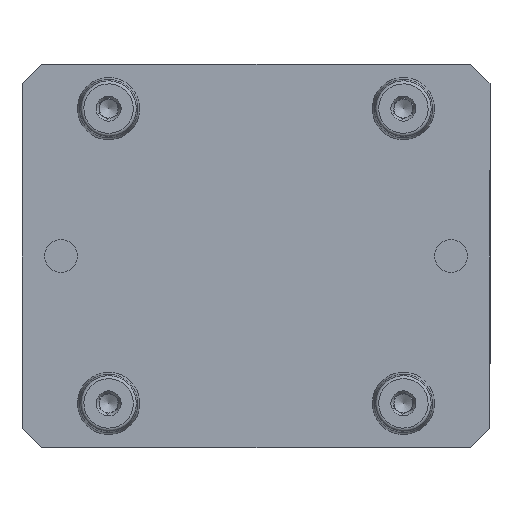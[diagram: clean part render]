
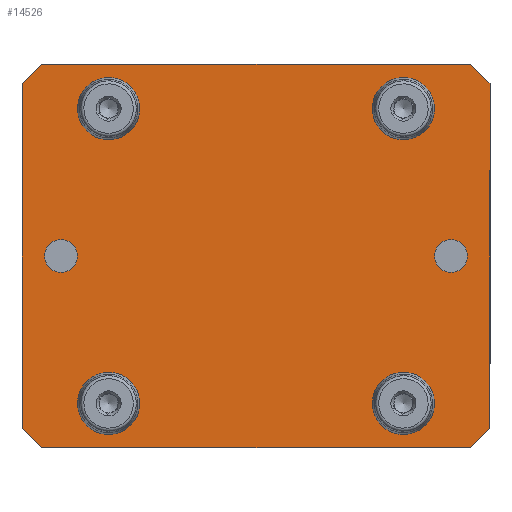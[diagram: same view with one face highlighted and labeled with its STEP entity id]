
A CAD part, front view. The second image highlights one B-rep face of the part: STEP entity #14526.
In plain terms, the highlighted planar face has unit normal (0, -1, 0).
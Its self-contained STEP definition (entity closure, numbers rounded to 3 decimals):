
#255 = DIRECTION ( 'NONE',  ( 0.707, 0., -0.707 ) ) ;
#695 = CARTESIAN_POINT ( 'NONE',  ( -69.85, 0., 62.497 ) ) ;
#788 = EDGE_CURVE ( 'NONE', #3095, #3095, #5813, .T. ) ;
#1117 = DIRECTION ( 'NONE',  ( 0., 0., -1. ) ) ;
#1497 = DIRECTION ( 'NONE',  ( 0., -1., 0. ) ) ;
#1763 = VECTOR ( 'NONE', #18843, 1000. ) ;
#1796 = CARTESIAN_POINT ( 'NONE',  ( 48., 0., -48. ) ) ;
#1880 = VERTEX_POINT ( 'NONE', #27275 ) ;
#1947 = VERTEX_POINT ( 'NONE', #21576 ) ;
#1976 = VERTEX_POINT ( 'NONE', #14669 ) ;
#2595 = ORIENTED_EDGE ( 'NONE', *, *, #26651, .F. ) ;
#3095 = VERTEX_POINT ( 'NONE', #14209 ) ;
#3193 = EDGE_CURVE ( 'NONE', #26569, #19560, #28852, .T. ) ;
#3826 = CARTESIAN_POINT ( 'NONE',  ( 48., 0., 56.01 ) ) ;
#4112 = AXIS2_PLACEMENT_3D ( 'NONE', #4563, #22878, #6956 ) ;
#4163 = VECTOR ( 'NONE', #8965, 1000. ) ;
#4407 = EDGE_CURVE ( 'NONE', #10413, #10413, #21663, .T. ) ;
#4438 = VECTOR ( 'NONE', #255, 1000. ) ;
#4454 = DIRECTION ( 'NONE',  ( 0., 0., 1. ) ) ;
#4563 = CARTESIAN_POINT ( 'NONE',  ( 0., 0., 0. ) ) ;
#4862 = FACE_BOUND ( 'NONE', #9378, .T. ) ;
#4998 = EDGE_CURVE ( 'NONE', #27073, #12221, #14905, .T. ) ;
#5169 = DIRECTION ( 'NONE',  ( -0.707, 0., 0.707 ) ) ;
#5526 = DIRECTION ( 'NONE',  ( 0., -1., 0. ) ) ;
#5600 = VERTEX_POINT ( 'NONE', #23748 ) ;
#5604 = LINE ( 'NONE', #695, #1763 ) ;
#5813 = CIRCLE ( 'NONE', #22599, 8.01 ) ;
#5895 = CARTESIAN_POINT ( 'NONE',  ( -76.2, 0., -62.497 ) ) ;
#6667 = FACE_BOUND ( 'NONE', #28385, .T. ) ;
#6956 = DIRECTION ( 'NONE',  ( 0., 0., 1. ) ) ;
#6961 = CARTESIAN_POINT ( 'NONE',  ( -76.2, 0., 56.147 ) ) ;
#7059 = ORIENTED_EDGE ( 'NONE', *, *, #15269, .F. ) ;
#7135 = LINE ( 'NONE', #19287, #12261 ) ;
#7340 = DIRECTION ( 'NONE',  ( 0., -1., 0. ) ) ;
#7410 = LINE ( 'NONE', #25759, #21759 ) ;
#7454 = ORIENTED_EDGE ( 'NONE', *, *, #3193, .F. ) ;
#7700 = DIRECTION ( 'NONE',  ( 0., 0., -1. ) ) ;
#7911 = EDGE_CURVE ( 'NONE', #21041, #19560, #5604, .T. ) ;
#8202 = CARTESIAN_POINT ( 'NONE',  ( -76.2, 0., -56.147 ) ) ;
#8230 = VECTOR ( 'NONE', #19422, 1000. ) ;
#8646 = CARTESIAN_POINT ( 'NONE',  ( -76.2, 0., -56.147 ) ) ;
#8795 = CARTESIAN_POINT ( 'NONE',  ( -69.85, 0., -62.497 ) ) ;
#8888 = CIRCLE ( 'NONE', #10791, 5.358 ) ;
#8965 = DIRECTION ( 'NONE',  ( 0.707, 0., 0.707 ) ) ;
#9059 = EDGE_CURVE ( 'NONE', #10110, #10110, #20923, .T. ) ;
#9060 = FACE_OUTER_BOUND ( 'NONE', #11003, .T. ) ;
#9197 = EDGE_CURVE ( 'NONE', #11007, #11007, #14721, .T. ) ;
#9199 = FACE_BOUND ( 'NONE', #14196, .T. ) ;
#9347 = EDGE_CURVE ( 'NONE', #27073, #1976, #22636, .T. ) ;
#9378 = EDGE_LOOP ( 'NONE', ( #22561 ) ) ;
#10110 = VERTEX_POINT ( 'NONE', #19302 ) ;
#10413 = VERTEX_POINT ( 'NONE', #3826 ) ;
#10791 = AXIS2_PLACEMENT_3D ( 'NONE', #29384, #18420, #4454 ) ;
#10859 = CARTESIAN_POINT ( 'NONE',  ( 69.85, 0., 62.497 ) ) ;
#11003 = EDGE_LOOP ( 'NONE', ( #7454, #23542, #20497, #23554, #7059, #20679, #2595, #14021 ) ) ;
#11007 = VERTEX_POINT ( 'NONE', #18236 ) ;
#12221 = VERTEX_POINT ( 'NONE', #8795 ) ;
#12259 = ORIENTED_EDGE ( 'NONE', *, *, #4407, .F. ) ;
#12261 = VECTOR ( 'NONE', #7700, 1000. ) ;
#12511 = EDGE_CURVE ( 'NONE', #1880, #1880, #22670, .T. ) ;
#13175 = DIRECTION ( 'NONE',  ( 0., 0., -1. ) ) ;
#13421 = FACE_BOUND ( 'NONE', #27804, .T. ) ;
#13709 = ORIENTED_EDGE ( 'NONE', *, *, #9197, .F. ) ;
#13938 = EDGE_LOOP ( 'NONE', ( #13709 ) ) ;
#14009 = EDGE_CURVE ( 'NONE', #26569, #12221, #27002, .T. ) ;
#14021 = ORIENTED_EDGE ( 'NONE', *, *, #7911, .T. ) ;
#14196 = EDGE_LOOP ( 'NONE', ( #18668 ) ) ;
#14209 = CARTESIAN_POINT ( 'NONE',  ( -48., 0., 39.99 ) ) ;
#14526 = ADVANCED_FACE ( 'NONE', ( #9199, #13421, #29659, #6667, #15827, #4862, #9060 ), #18235, .F. ) ;
#14669 = CARTESIAN_POINT ( 'NONE',  ( 76.2, 0., -56.147 ) ) ;
#14721 = CIRCLE ( 'NONE', #26255, 8.01 ) ;
#14905 = LINE ( 'NONE', #5895, #8230 ) ;
#15137 = CARTESIAN_POINT ( 'NONE',  ( 48., 0., 48. ) ) ;
#15269 = EDGE_CURVE ( 'NONE', #1947, #1976, #7135, .T. ) ;
#15827 = FACE_BOUND ( 'NONE', #13938, .T. ) ;
#17080 = DIRECTION ( 'NONE',  ( 0., 0., 1. ) ) ;
#18189 = ORIENTED_EDGE ( 'NONE', *, *, #12511, .T. ) ;
#18235 = PLANE ( 'NONE',  #4112 ) ;
#18236 = CARTESIAN_POINT ( 'NONE',  ( 48., 0., -56.01 ) ) ;
#18420 = DIRECTION ( 'NONE',  ( 0., 1., 0. ) ) ;
#18668 = ORIENTED_EDGE ( 'NONE', *, *, #29619, .T. ) ;
#18701 = CARTESIAN_POINT ( 'NONE',  ( 69.85, 0., -62.497 ) ) ;
#18843 = DIRECTION ( 'NONE',  ( -0.707, 0., -0.707 ) ) ;
#18894 = CARTESIAN_POINT ( 'NONE',  ( -69.85, 0., 62.497 ) ) ;
#19287 = CARTESIAN_POINT ( 'NONE',  ( 76.2, 0., -62.497 ) ) ;
#19302 = CARTESIAN_POINT ( 'NONE',  ( -48., 0., -39.99 ) ) ;
#19365 = DIRECTION ( 'NONE',  ( 0., 0., 1. ) ) ;
#19422 = DIRECTION ( 'NONE',  ( -1., 0., 0. ) ) ;
#19560 = VERTEX_POINT ( 'NONE', #6961 ) ;
#20223 = VECTOR ( 'NONE', #24932, 1000. ) ;
#20305 = CARTESIAN_POINT ( 'NONE',  ( 63.5, 0., 0. ) ) ;
#20497 = ORIENTED_EDGE ( 'NONE', *, *, #4998, .F. ) ;
#20679 = ORIENTED_EDGE ( 'NONE', *, *, #27252, .T. ) ;
#20923 = CIRCLE ( 'NONE', #24756, 8.01 ) ;
#20930 = EDGE_LOOP ( 'NONE', ( #12259 ) ) ;
#21041 = VERTEX_POINT ( 'NONE', #18894 ) ;
#21576 = CARTESIAN_POINT ( 'NONE',  ( 76.2, 0., 56.147 ) ) ;
#21647 = DIRECTION ( 'NONE',  ( 0., -1., 0. ) ) ;
#21663 = CIRCLE ( 'NONE', #25533, 8.01 ) ;
#21759 = VECTOR ( 'NONE', #5169, 1000. ) ;
#22411 = DIRECTION ( 'NONE',  ( 0., 0., 1. ) ) ;
#22561 = ORIENTED_EDGE ( 'NONE', *, *, #788, .F. ) ;
#22599 = AXIS2_PLACEMENT_3D ( 'NONE', #28593, #21647, #1117 ) ;
#22636 = LINE ( 'NONE', #29562, #4163 ) ;
#22670 = CIRCLE ( 'NONE', #24087, 5.358 ) ;
#22878 = DIRECTION ( 'NONE',  ( 0., 1., 0. ) ) ;
#23542 = ORIENTED_EDGE ( 'NONE', *, *, #14009, .T. ) ;
#23554 = ORIENTED_EDGE ( 'NONE', *, *, #9347, .T. ) ;
#23748 = CARTESIAN_POINT ( 'NONE',  ( -63.5, 0., 5.358 ) ) ;
#23986 = CARTESIAN_POINT ( 'NONE',  ( -48., 0., -48. ) ) ;
#24087 = AXIS2_PLACEMENT_3D ( 'NONE', #20305, #29333, #22411 ) ;
#24756 = AXIS2_PLACEMENT_3D ( 'NONE', #23986, #7340, #19365 ) ;
#24932 = DIRECTION ( 'NONE',  ( 0., 0., 1. ) ) ;
#25005 = VERTEX_POINT ( 'NONE', #10859 ) ;
#25037 = LINE ( 'NONE', #29258, #29450 ) ;
#25533 = AXIS2_PLACEMENT_3D ( 'NONE', #15137, #5526, #17080 ) ;
#25759 = CARTESIAN_POINT ( 'NONE',  ( 76.2, 0., 56.147 ) ) ;
#25821 = ORIENTED_EDGE ( 'NONE', *, *, #9059, .F. ) ;
#26255 = AXIS2_PLACEMENT_3D ( 'NONE', #1796, #1497, #13175 ) ;
#26569 = VERTEX_POINT ( 'NONE', #8202 ) ;
#26651 = EDGE_CURVE ( 'NONE', #21041, #25005, #25037, .T. ) ;
#27002 = LINE ( 'NONE', #8646, #4438 ) ;
#27006 = DIRECTION ( 'NONE',  ( 1., 0., 0. ) ) ;
#27073 = VERTEX_POINT ( 'NONE', #18701 ) ;
#27252 = EDGE_CURVE ( 'NONE', #1947, #25005, #7410, .T. ) ;
#27275 = CARTESIAN_POINT ( 'NONE',  ( 63.5, 0., 5.358 ) ) ;
#27804 = EDGE_LOOP ( 'NONE', ( #18189 ) ) ;
#28385 = EDGE_LOOP ( 'NONE', ( #25821 ) ) ;
#28593 = CARTESIAN_POINT ( 'NONE',  ( -48., 0., 48. ) ) ;
#28852 = LINE ( 'NONE', #28999, #20223 ) ;
#28999 = CARTESIAN_POINT ( 'NONE',  ( -76.2, 0., -62.497 ) ) ;
#29258 = CARTESIAN_POINT ( 'NONE',  ( -76.2, 0., 62.497 ) ) ;
#29333 = DIRECTION ( 'NONE',  ( 0., 1., 0. ) ) ;
#29384 = CARTESIAN_POINT ( 'NONE',  ( -63.5, 0., 0. ) ) ;
#29450 = VECTOR ( 'NONE', #27006, 1000. ) ;
#29562 = CARTESIAN_POINT ( 'NONE',  ( 69.85, 0., -62.497 ) ) ;
#29619 = EDGE_CURVE ( 'NONE', #5600, #5600, #8888, .T. ) ;
#29659 = FACE_BOUND ( 'NONE', #20930, .T. ) ;
